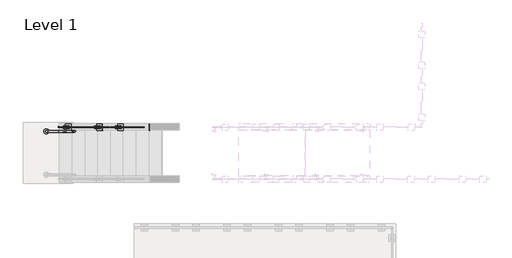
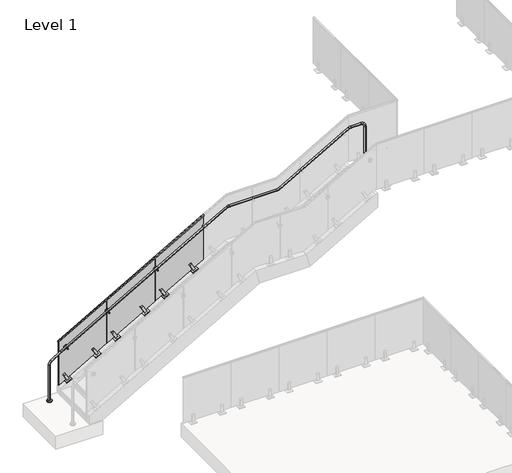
# One storey, part 14 of 17: 1 railing.
"""IFC4 building model written with IfcOpenShell, lengths in millimetres."""

from ifc_helpers import new_model, si_unit, point, frame, frame_2d, origin, origin_with_axes, place, context, project, spatial, polyline, circle_curve, ellipse_curve, trimmed, segment, composite_curve, outline, extrude, faceted_brep, element, save
from ifc_brep_helpers import plane_surface, cylinder_surface, revolved_surface, advanced_brep

model = new_model("IFC4")

# Units and contexts
model_context = context("Model", 3, world=origin())
ifc_project = project(units=[si_unit("LENGTHUNIT", "METRE", prefix="MILLI")], contexts=[model_context])

# Site, building, storey
site = spatial("IfcSite", under=ifc_project)
building = spatial("IfcBuilding", under=site)
storey = spatial("IfcBuildingStorey", under=building, Name="Level 1", Elevation=0.0)

# Railing
placement = place(None, origin())
element("IfcRailing", 1, ObjectType="VIVA-VISIO-Glass-Concrete Surface Mount-Stair_Lower", at=placement, inside=storey, context=model_context, shape_type="SolidModel", body=[
    extrude(outline(composite_curve([segment(trimmed(circle_curve(frame_2d((30763.9612561, -1477.2617549)), 50.8), [point((30763.9612561, -1528.0617549))], [point((30763.9612561, -1426.4617549))], False, "CARTESIAN"), True, "CONTINUOUS"), segment(trimmed(circle_curve(frame_2d((30763.9612561, -1477.2617549)), 50.8), [point((30763.9612561, -1426.4617549))], [point((30763.9612561, -1528.0617549))], False, "CARTESIAN"), True, "CONTINUOUS")], self_intersect=False)), frame((0.0, 0.0, 3048.0), z_axis=(0.0, 0.0, 1.0), x_axis=(1.0, 0.0, 0.0)), (0.0, 0.0, 1.0), 19.05),
    extrude(outline(composite_curve([segment(trimmed(circle_curve(frame_2d((24045.6612561, -1477.2617549)), 50.8), [point((24045.6612561, -1426.4617549))], [point((24045.6612561, -1528.0617549))], False, "CARTESIAN"), True, "CONTINUOUS"), segment(trimmed(circle_curve(frame_2d((24045.6612561, -1477.2617549)), 50.8), [point((24045.6612561, -1528.0617549))], [point((24045.6612561, -1426.4617549))], False, "CARTESIAN"), True, "CONTINUOUS")], self_intersect=False)), origin_with_axes(), (0.0, 0.0, 1.0), 19.05),
    advanced_brep(
    [(24045.6612561, -1496.3117549, 19.05), (24045.6612561, -1458.2117549, 19.05), (24045.6612561, -1496.3117549, 821.3205682), (24045.6612561, -1458.2117549, 821.3205682), (24082.4207549, -1458.2117549, 890.00632), (24082.4207549, -1496.3117549, 890.00632), (24288.2667076, -1496.3117549, 1027.2369552), (24288.2667076, -1458.2117549, 1027.2369552), (24293.1009394, -1458.2117549, 1030.2246748), (24293.1009394, -1496.3117549, 1030.2246748), (27388.8627028, -1496.3117549, 2799.2313967), (27388.8627028, -1458.2117549, 2799.2313967), (27822.6363335, -1496.3117549, 3047.1020428), (27822.6363335, -1458.2117549, 3047.1020428), (27863.5926029, -1458.2117549, 3057.9785714), (27863.5926029, -1496.3117549, 3057.9785714), (28876.4299093, -1496.3117549, 3057.9785714), (28876.4299093, -1458.2117549, 3057.9785714), (28936.2890722, -1458.2117549, 3073.8750363), (28936.2890722, -1496.3117549, 3073.8750363), (30413.4363335, -1496.3117549, 3917.9591857), (30413.4363335, -1458.2117549, 3917.9591857), (30454.3926029, -1458.2117549, 3928.8357143), (30454.3926029, -1496.3117549, 3928.8357143), (30681.4112561, -1496.3117549, 3928.8357143), (30681.4112561, -1458.2117549, 3928.8357143), (30763.9612561, -1458.2117549, 3846.2857143), (30763.9612561, -1496.3117549, 3846.2857143), (30763.9612561, -1496.3117549, 3067.05), (30763.9612561, -1458.2117549, 3067.05)],
    [
        (0, 1, circle_curve(frame((24045.6612561, -1477.2617549, 19.05), z_axis=(0.0, 0.0, -1.0), x_axis=(0.0, 1.0, 0.0)), 19.05)),
        (1, 0, circle_curve(frame((24045.6612561, -1477.2617549, 19.05), z_axis=(0.0, 0.0, -1.0), x_axis=(0.0, 1.0, 0.0)), 19.05)),
        (0, 2),
        (2, 3, circle_curve(frame((24045.6612561, -1477.2617549, 821.3205682), z_axis=(0.0, 0.0, -1.0), x_axis=(0.0, 1.0, 0.0)), 19.05)),
        (3, 1),
        (3, 2, circle_curve(frame((24045.6612561, -1477.2617549, 821.3205682), z_axis=(0.0, 0.0, -1.0), x_axis=(0.0, 1.0, 0.0)), 19.05)),
        (4, 3, circle_curve(frame((24128.2112561, -1458.2117549, 821.3205682), z_axis=(0.0, -1.0, 0.0), x_axis=(-0.9999999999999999, 0.0, 0.0)), 82.55)),
        (2, 5, circle_curve(frame((24128.2112561, -1496.3117549, 821.3205682), z_axis=(0.0, 1.0, 0.0), x_axis=(-0.9999999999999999, 0.0, 0.0)), 82.55)),
        (5, 4, circle_curve(frame((24082.4207549, -1477.2617549, 890.00632), z_axis=(-0.8320502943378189, 0.0, -0.554700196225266), x_axis=(0.0, 0.9999999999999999, 0.0)), 19.05)),
        (4, 5, circle_curve(frame((24082.4207549, -1477.2617549, 890.00632), z_axis=(-0.8320502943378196, 0.0, -0.5547001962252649), x_axis=(0.0, 0.9999999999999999, 0.0)), 19.05)),
        (5, 6),
        (6, 7, circle_curve(frame((24288.2667076, -1477.2617549, 1027.2369552), z_axis=(-0.8320502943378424, 0.0, -0.554700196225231), x_axis=(0.0, 1.0, 0.0)), 19.05)),
        (7, 4),
        (7, 6, circle_curve(frame((24288.2667076, -1477.2617549, 1027.2369552), z_axis=(-0.8320502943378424, 0.0, -0.554700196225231), x_axis=(0.0, 1.0, 0.0)), 19.05)),
        (8, 9, circle_curve(frame((24293.1009394, -1477.2617549, 1030.2246748), z_axis=(0.8682431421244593, 0.0, 0.49613893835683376), x_axis=(0.0, 1.0, 0.0)), 19.05)),
        (9, 10),
        (10, 11, circle_curve(frame((27388.8627028, -1477.2617549, 2799.2313967), z_axis=(-0.8682431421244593, 0.0, -0.49613893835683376), x_axis=(0.0, 1.0, 0.0)), 19.05)),
        (11, 8),
        (9, 8, circle_curve(frame((24293.1009394, -1477.2617549, 1030.2246748), z_axis=(0.8682431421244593, 0.0, 0.49613893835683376), x_axis=(0.0, 1.0, 0.0)), 19.05)),
        (11, 10, circle_curve(frame((27388.8627028, -1477.2617549, 2799.2313967), z_axis=(-0.8682431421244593, 0.0, -0.49613893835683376), x_axis=(0.0, 1.0, 0.0)), 19.05)),
        (8, 7, circle_curve(frame((24334.0572088, -1458.2117549, 958.5512034), z_axis=(0.0, -1.0, 0.0), x_axis=(-0.5547001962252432, 0.0, 0.8320502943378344)), 82.55)),
        (6, 9, circle_curve(frame((24334.0572088, -1496.3117549, 958.5512034), z_axis=(0.0, 1.0, 0.0), x_axis=(-0.5547001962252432, 0.0, 0.8320502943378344)), 82.55)),
        (10, 12),
        (12, 13, circle_curve(frame((27822.6363335, -1477.2617549, 3047.1020428), z_axis=(-0.8682431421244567, 0.0, -0.49613893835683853), x_axis=(0.0, 1.0, 0.0)), 19.05)),
        (13, 11),
        (13, 12, circle_curve(frame((27822.6363335, -1477.2617549, 3047.1020428), z_axis=(-0.8682431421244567, 0.0, -0.49613893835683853), x_axis=(0.0, 1.0, 0.0)), 19.05)),
        (14, 13, circle_curve(frame((27863.5926029, -1458.2117549, 2975.4285714), z_axis=(0.0, -1.0, 0.0), x_axis=(-0.49613893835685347, 0.0, 0.8682431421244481)), 82.55)),
        (12, 15, circle_curve(frame((27863.5926029, -1496.3117549, 2975.4285714), z_axis=(0.0, 1.0, 0.0), x_axis=(-0.49613893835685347, 0.0, 0.8682431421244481)), 82.55)),
        (15, 14, circle_curve(frame((27863.5926029, -1477.2617549, 3057.9785714), z_axis=(-1.0, 0.0, 0.0), x_axis=(0.0, 1.0, 0.0)), 19.05)),
        (14, 15, circle_curve(frame((27863.5926029, -1477.2617549, 3057.9785714), z_axis=(-1.0, 0.0, 0.0), x_axis=(0.0, 1.0, 0.0)), 19.05)),
        (15, 16),
        (16, 17, circle_curve(frame((28876.4299093, -1477.2617549, 3057.9785714), z_axis=(-1.0, 0.0, 0.0), x_axis=(0.0, 1.0, 0.0)), 19.05)),
        (17, 14),
        (17, 16, circle_curve(frame((28876.4299093, -1477.2617549, 3057.9785714), z_axis=(-1.0, 0.0, 0.0), x_axis=(0.0, 1.0, 0.0)), 19.05)),
        (18, 17, circle_curve(frame((28876.4299093, -1458.2117549, 3178.6285714), z_axis=(0.0, 1.0, 0.0), x_axis=(0.0, 0.0, -0.9999999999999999)), 120.65)),
        (16, 19, circle_curve(frame((28876.4299093, -1496.3117549, 3178.6285714), z_axis=(0.0, -1.0, 0.0), x_axis=(0.0, 0.0, -0.9999999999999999)), 120.65)),
        (19, 18, circle_curve(frame((28936.2890722, -1477.2617549, 3073.8750363), z_axis=(-0.8682431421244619, 0.0, -0.49613893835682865), x_axis=(0.0, 0.9999999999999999, 0.0)), 19.05)),
        (18, 19, circle_curve(frame((28936.2890722, -1477.2617549, 3073.8750363), z_axis=(-0.8682431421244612, 0.0, -0.4961389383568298), x_axis=(0.0, 0.9999999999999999, 0.0)), 19.05)),
        (19, 20),
        (20, 21, circle_curve(frame((30413.4363335, -1477.2617549, 3917.9591857), z_axis=(-0.8682431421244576, 0.0, -0.4961389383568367), x_axis=(0.0, 1.0, 0.0)), 19.05)),
        (21, 18),
        (21, 20, circle_curve(frame((30413.4363335, -1477.2617549, 3917.9591857), z_axis=(-0.8682431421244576, 0.0, -0.4961389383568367), x_axis=(0.0, 1.0, 0.0)), 19.05)),
        (22, 21, circle_curve(frame((30454.3926029, -1458.2117549, 3846.2857143), z_axis=(0.0, -1.0, 0.0), x_axis=(-0.49613893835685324, 0.0, 0.868243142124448)), 82.55)),
        (20, 23, circle_curve(frame((30454.3926029, -1496.3117549, 3846.2857143), z_axis=(0.0, 1.0, 0.0), x_axis=(-0.49613893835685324, 0.0, 0.868243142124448)), 82.55)),
        (23, 22, circle_curve(frame((30454.3926029, -1477.2617549, 3928.8357143), z_axis=(-0.9999999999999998, 0.0, 0.0), x_axis=(0.0, 0.9999999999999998, 0.0)), 19.05)),
        (22, 23, circle_curve(frame((30454.3926029, -1477.2617549, 3928.8357143), z_axis=(-0.9999999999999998, 0.0, 0.0), x_axis=(0.0, 0.9999999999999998, 0.0)), 19.05)),
        (23, 24),
        (24, 25, circle_curve(frame((30681.4112561, -1477.2617549, 3928.8357143), z_axis=(-1.0, 0.0, 0.0), x_axis=(0.0, 1.0, 0.0)), 19.05)),
        (25, 22),
        (25, 24, circle_curve(frame((30681.4112561, -1477.2617549, 3928.8357143), z_axis=(-1.0, 0.0, 0.0), x_axis=(0.0, 1.0, 0.0)), 19.05)),
        (26, 25, circle_curve(frame((30681.4112561, -1458.2117549, 3846.2857143), z_axis=(0.0, -1.0, 0.0), x_axis=(0.0, 0.0, 1.0)), 82.55)),
        (24, 27, circle_curve(frame((30681.4112561, -1496.3117549, 3846.2857143), z_axis=(0.0, 1.0, 0.0), x_axis=(0.0, 0.0, 1.0)), 82.55)),
        (27, 26, circle_curve(frame((30763.9612561, -1477.2617549, 3846.2857143), z_axis=(0.0, 0.0, 1.0), x_axis=(0.0, 1.0, 0.0)), 19.05)),
        (26, 27, circle_curve(frame((30763.9612561, -1477.2617549, 3846.2857143), z_axis=(0.0, 0.0, 1.0), x_axis=(0.0, 1.0, 0.0)), 19.05)),
        (28, 29, circle_curve(frame((30763.9612561, -1477.2617549, 3067.05), z_axis=(0.0, 0.0, -1.0), x_axis=(0.0, 1.0, 0.0)), 19.05)),
        (29, 28, circle_curve(frame((30763.9612561, -1477.2617549, 3067.05), z_axis=(0.0, 0.0, -1.0), x_axis=(0.0, 1.0, 0.0)), 19.05)),
        (27, 28),
        (29, 26),
    ],
    [
        plane_surface(frame((24026.6112561, -1515.3617549, 19.05), z_axis=(0.0, 0.0, -1.0), x_axis=(1.0, 0.0, 0.0))),
        cylinder_surface(frame((24045.6612561, -1477.2617549, 19.05), z_axis=(0.0, 0.0, -1.0), x_axis=(0.0, 1.0, 0.0)), 19.05),
        revolved_surface(trimmed(ellipse_curve(frame((24045.6612561, -1477.2617549, 821.3205682), z_axis=(0.0, 0.0, -0.9999999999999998), x_axis=(0.0, 0.9999999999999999, 0.0)), 19.05, 19.05), [point((24045.6612561, -1496.3117549, 821.3205682))], [point((24045.6612561, -1458.2117549, 821.3205682))], True, "CARTESIAN"), (24128.2112561, -1477.2617549, 821.3205682), (0.0, 0.9999999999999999, 0.0)),
        revolved_surface(trimmed(ellipse_curve(frame((24045.6612561, -1477.2617549, 821.3205682), z_axis=(0.0, 0.0, -0.9999999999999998), x_axis=(0.0, 0.9999999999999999, 0.0)), 19.05, 19.05), [point((24045.6612561, -1458.2117549, 821.3205682))], [point((24045.6612561, -1496.3117549, 821.3205682))], True, "CARTESIAN"), (24128.2112561, -1477.2617549, 821.3205682), (0.0, 0.9999999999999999, 0.0)),
        cylinder_surface(frame((24082.4207549, -1477.2617549, 890.00632), z_axis=(-0.8320502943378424, 0.0, -0.554700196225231), x_axis=(0.0, 1.0, 0.0)), 19.05),
        cylinder_surface(frame((24293.1009394, -1477.2617549, 1030.2246748), z_axis=(-0.8682431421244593, 0.0, -0.49613893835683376), x_axis=(0.0, 1.0, 0.0)), 19.05),
        revolved_surface(trimmed(ellipse_curve(frame((24288.2667076, -1477.2617549, 1027.2369552), z_axis=(-0.8320502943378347, 0.0, -0.5547001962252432), x_axis=(0.0, 1.0000000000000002, 0.0)), 19.05, 19.05), [point((24288.2667076, -1496.3117549, 1027.2369552))], [point((24288.2667076, -1458.2117549, 1027.2369552))], True, "CARTESIAN"), (24334.0572088, -1477.2617549, 958.5512034), (0.0, 1.0000000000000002, 0.0)),
        revolved_surface(trimmed(ellipse_curve(frame((24288.2667076, -1477.2617549, 1027.2369552), z_axis=(-0.8320502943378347, 0.0, -0.5547001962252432), x_axis=(0.0, 1.0000000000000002, 0.0)), 19.05, 19.05), [point((24288.2667076, -1458.2117549, 1027.2369552))], [point((24288.2667076, -1496.3117549, 1027.2369552))], True, "CARTESIAN"), (24334.0572088, -1477.2617549, 958.5512034), (0.0, 1.0000000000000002, 0.0)),
        cylinder_surface(frame((27388.8627028, -1477.2617549, 2799.2313967), z_axis=(-0.8682431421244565, 0.0, -0.4961389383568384), x_axis=(0.0, 1.0, 0.0)), 19.05),
        revolved_surface(trimmed(ellipse_curve(frame((27822.6363335, -1477.2617549, 3047.1020428), z_axis=(-0.8682431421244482, 0.0, -0.4961389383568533), x_axis=(0.0, 1.0, 0.0)), 19.05, 19.05), [point((27822.6363335, -1496.3117549, 3047.1020428))], [point((27822.6363335, -1458.2117549, 3047.1020428))], True, "CARTESIAN"), (27863.5926029, -1477.2617549, 2975.4285714), (0.0, 1.0, 0.0)),
        revolved_surface(trimmed(ellipse_curve(frame((27822.6363335, -1477.2617549, 3047.1020428), z_axis=(-0.8682431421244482, 0.0, -0.4961389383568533), x_axis=(0.0, 1.0, 0.0)), 19.05, 19.05), [point((27822.6363335, -1458.2117549, 3047.1020428))], [point((27822.6363335, -1496.3117549, 3047.1020428))], True, "CARTESIAN"), (27863.5926029, -1477.2617549, 2975.4285714), (0.0, 1.0, 0.0)),
        cylinder_surface(frame((27863.5926029, -1477.2617549, 3057.9785714), z_axis=(-1.0, 0.0, 0.0), x_axis=(0.0, 1.0, 0.0)), 19.05),
        revolved_surface(trimmed(ellipse_curve(frame((28876.4299093, -1477.2617549, 3057.9785714), z_axis=(-0.9999999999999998, 0.0, 0.0), x_axis=(0.0, 0.9999999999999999, 0.0)), 19.05, 19.05), [point((28876.4299093, -1496.3117549, 3057.9785714))], [point((28876.4299093, -1458.2117549, 3057.9785714))], True, "CARTESIAN"), (28876.4299093, -1477.2617549, 3178.6285714), (0.0, -0.9999999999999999, 0.0)),
        revolved_surface(trimmed(ellipse_curve(frame((28876.4299093, -1477.2617549, 3057.9785714), z_axis=(-0.9999999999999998, 0.0, 0.0), x_axis=(0.0, 0.9999999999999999, 0.0)), 19.05, 19.05), [point((28876.4299093, -1458.2117549, 3057.9785714))], [point((28876.4299093, -1496.3117549, 3057.9785714))], True, "CARTESIAN"), (28876.4299093, -1477.2617549, 3178.6285714), (0.0, -0.9999999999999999, 0.0)),
        cylinder_surface(frame((28936.2890722, -1477.2617549, 3073.8750363), z_axis=(-0.8682431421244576, 0.0, -0.4961389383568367), x_axis=(0.0, 1.0, 0.0)), 19.05),
        revolved_surface(trimmed(ellipse_curve(frame((30413.4363335, -1477.2617549, 3917.9591857), z_axis=(-0.8682431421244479, 0.0, -0.49613893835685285), x_axis=(0.0, 0.9999999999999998, 0.0)), 19.05, 19.05), [point((30413.4363335, -1496.3117549, 3917.9591857))], [point((30413.4363335, -1458.2117549, 3917.9591857))], True, "CARTESIAN"), (30454.3926029, -1477.2617549, 3846.2857143), (0.0, 0.9999999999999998, 0.0)),
        revolved_surface(trimmed(ellipse_curve(frame((30413.4363335, -1477.2617549, 3917.9591857), z_axis=(-0.8682431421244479, 0.0, -0.49613893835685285), x_axis=(0.0, 0.9999999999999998, 0.0)), 19.05, 19.05), [point((30413.4363335, -1458.2117549, 3917.9591857))], [point((30413.4363335, -1496.3117549, 3917.9591857))], True, "CARTESIAN"), (30454.3926029, -1477.2617549, 3846.2857143), (0.0, 0.9999999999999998, 0.0)),
        cylinder_surface(frame((30454.3926029, -1477.2617549, 3928.8357143), z_axis=(-1.0, 0.0, 0.0), x_axis=(0.0, 1.0, 0.0)), 19.05),
        revolved_surface(trimmed(ellipse_curve(frame((30681.4112561, -1477.2617549, 3928.8357143), z_axis=(-1.0, 0.0, 0.0), x_axis=(0.0, 1.0, 0.0)), 19.05, 19.05), [point((30681.4112561, -1496.3117549, 3928.8357143))], [point((30681.4112561, -1458.2117549, 3928.8357143))], True, "CARTESIAN"), (30681.4112561, -1477.2617549, 3846.2857143), (0.0, 1.0, 0.0)),
        revolved_surface(trimmed(ellipse_curve(frame((30681.4112561, -1477.2617549, 3928.8357143), z_axis=(-1.0, 0.0, 0.0), x_axis=(0.0, 1.0, 0.0)), 19.05, 19.05), [point((30681.4112561, -1458.2117549, 3928.8357143))], [point((30681.4112561, -1496.3117549, 3928.8357143))], True, "CARTESIAN"), (30681.4112561, -1477.2617549, 3846.2857143), (0.0, 1.0, 0.0)),
        plane_surface(frame((30783.0112561, -1515.3617549, 3067.05), z_axis=(0.0, 0.0, -1.0), x_axis=(-1.0, 0.0, 0.0))),
        cylinder_surface(frame((30763.9612561, -1477.2617549, 3846.2857143), z_axis=(0.0, 0.0, 1.0), x_axis=(0.0, 1.0, 0.0)), 19.05),
    ],
    [
        (0, [[1, 2]]),
        (1, [[-1, 3, 4, 5]]),
        (1, [[-2, -5, 6, -3]]),
        (2, [[7, -4, 8, 9]]),
        (3, [[-8, -6, -7, 10]]),
        (4, [[-9, 11, 12, 13]]),
        (4, [[-10, -13, 14, -11]]),
        (5, [[15, 16, 17, 18]]),
        (5, [[19, -18, 20, -16]]),
        (6, [[21, -12, 22, -15]]),
        (7, [[-22, -14, -21, -19]]),
        (8, [[-17, 23, 24, 25]]),
        (8, [[-20, -25, 26, -23]]),
        (9, [[27, -24, 28, 29]]),
        (10, [[-28, -26, -27, 30]]),
        (11, [[-29, 31, 32, 33]]),
        (11, [[-30, -33, 34, -31]]),
        (12, [[35, -32, 36, 37]]),
        (13, [[-36, -34, -35, 38]]),
        (14, [[-37, 39, 40, 41]]),
        (14, [[-38, -41, 42, -39]]),
        (15, [[43, -40, 44, 45]]),
        (16, [[-44, -42, -43, 46]]),
        (17, [[-45, 47, 48, 49]]),
        (17, [[-46, -49, 50, -47]]),
        (18, [[51, -48, 52, 53]]),
        (19, [[-52, -50, -51, 54]]),
        (20, [[55, 56]]),
        (21, [[-53, 57, -56, 58]]),
        (21, [[-54, -58, -55, -57]]),
    ],
),
    faceted_brep([(24280.6112561, -1405.5829549, 1222.8285714), (24280.6112561, -1383.8540486, 1222.8285714), (24280.6112561, -1383.8540486, 1193.5740933), (24280.6112561, -1388.3685017, 1193.5740933), (24280.6112561, -1388.3685017, 1218.4403997), (24280.6112561, -1401.0685017, 1218.4403997), (24280.6112561, -1401.0685017, 1193.5740933), (24280.6112561, -1405.5829549, 1193.5740933), (27379.4112561, -1405.5829549, 2993.5714286), (27379.4112561, -1405.5829549, 2964.3169505), (27379.4112561, -1401.0685017, 2964.3169505), (27379.4112561, -1401.0685017, 2989.1832569), (27379.4112561, -1388.3685017, 2989.1832569), (27379.4112561, -1388.3685017, 2964.3169505), (27379.4112561, -1383.8540486, 2964.3169505), (27379.4112561, -1383.8540486, 2993.5714286)], [[[0, 1, 2, 3, 4, 5, 6, 7]], [[8, 9, 10, 11, 12, 13, 14, 15]], [[1, 0, 8, 15]], [[2, 1, 15, 14]], [[3, 2, 14, 13]], [[4, 3, 13, 12]], [[5, 4, 12, 11]], [[6, 5, 11, 10]], [[7, 6, 10, 9]], [[0, 7, 9, 8]]]),
    extrude(outline(polyline([(0.0, -127.0), (0.0, 0.0), (127.0, 0.0), (127.0, -127.0), (0.0, -127.0)])), frame((27117.6911499, -1458.2117549, 1786.2814785), z_axis=(-0.4961389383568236, 0.0, 0.8682431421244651), x_axis=(0.0, 1.0, 0.0)), (0.0, 0.0, 1.0), 12.7),
    extrude(outline(polyline([(0.0, -12.7), (0.0, 0.0), (50.7999999, 0.0), (50.7999999, -12.7), (0.0, -12.7)])), frame((27150.7712136, -1388.3617549, 1805.1843721), z_axis=(-0.49613893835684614, 0.0, 0.8682431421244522), x_axis=(0.8682431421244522, 0.0, 0.49613893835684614)), (0.0, 0.0, 1.0), 50.8),
    extrude(outline(polyline([(0.0, 0.0), (139.7, 0.0), (166.6875, -11.1125), (166.6875, -19.05), (0.0, -19.05), (0.0, 0.0)])), frame((27138.9569051, -1420.1117549, 1825.8594119), z_axis=(0.8682431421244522, 0.0, 0.49613893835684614), x_axis=(-0.49613893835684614, 0.0, 0.8682431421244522)), (0.0, 0.0, 1.0), 50.8),
    extrude(outline(polyline([(0.0, -50.8), (0.0, -31.75), (166.6875, -31.75), (166.6875, -39.6875), (139.7, -50.8), (0.0, -50.8)])), frame((27138.9569051, -1420.1117549, 1825.8594119), z_axis=(0.8682431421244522, 0.0, 0.49613893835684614), x_axis=(-0.49613893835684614, 0.0, 0.8682431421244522)), (0.0, 0.0, 1.0), 50.8),
    extrude(outline(polyline([(2986.9494066, 27371.327636), (2406.377978, 26355.327636), (1407.5763011, 26355.327636), (1988.1477297, 27371.327636), (2986.9494066, 27371.327636)])), frame((0.0, -1401.0617549, 0.0), z_axis=(0.0, 1.0, 0.0), x_axis=(0.0, 0.0, 1.0)), (0.0, 0.0, 1.0), 12.7),
    extrude(outline(polyline([(0.0, -127.0), (0.0, 0.0), (127.0, 0.0), (127.0, -127.0), (0.0, -127.0)])), frame((26497.9311499, -1458.2117549, 1432.1329071), z_axis=(-0.4961389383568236, 0.0, 0.8682431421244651), x_axis=(0.0, 1.0, 0.0)), (0.0, 0.0, 1.0), 12.7),
    extrude(outline(polyline([(0.0, -12.7), (0.0, 0.0), (50.8, 0.0), (50.8, -12.7), (0.0, -12.7)])), frame((26531.0112136, -1388.3617549, 1451.0358006), z_axis=(-0.49613893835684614, 0.0, 0.8682431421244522), x_axis=(0.8682431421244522, 0.0, 0.49613893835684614)), (0.0, 0.0, 1.0), 50.8),
    extrude(outline(polyline([(0.0, 0.0), (139.7, 0.0), (166.6875, -11.1125), (166.6875, -19.05), (0.0, -19.05), (0.0, 0.0)])), frame((26519.1969051, -1420.1117549, 1471.7108405), z_axis=(0.8682431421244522, 0.0, 0.49613893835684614), x_axis=(-0.49613893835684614, 0.0, 0.8682431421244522)), (0.0, 0.0, 1.0), 50.8),
    extrude(outline(polyline([(0.0, -50.8), (0.0, -31.75), (166.6875, -31.75), (166.6875, -39.6875), (139.7, -50.8), (0.0, -50.8)])), frame((26519.1969051, -1420.1117549, 1471.7108405), z_axis=(0.8682431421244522, 0.0, 0.49613893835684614), x_axis=(-0.49613893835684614, 0.0, 0.8682431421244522)), (0.0, 0.0, 1.0), 50.8),
    extrude(outline(composite_curve([segment(trimmed(circle_curve(frame_2d((0.0, 7.0)), 7.0), [point((0.0, 14.0))], [point((0.0, 0.0))], False, "CARTESIAN"), True, "CONTINUOUS"), segment(trimmed(circle_curve(frame_2d((0.0, 7.0)), 7.0), [point((0.0, 0.0))], [point((0.0, 14.0))], False, "CARTESIAN"), True, "CONTINUOUS")], self_intersect=False)), frame((26359.2741159, -1469.9316158, 2123.885294), z_axis=(-0.5018548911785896, 0.0, 0.8649518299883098), x_axis=(-0.8649518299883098, 0.0, -0.5018548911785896)), (0.0, 0.0, 1.0), 52.8378352),
    extrude(outline(composite_curve([segment(polyline([(5.2466063, -13.9247915), (4.2292193, -14.9511811)]), True, "CONTINUOUS"), segment(trimmed(circle_curve(frame_2d((3.1638974, -13.8952033)), 1.5), [point((4.2292193, -14.9511811))], [point((2.0329756, -14.8806047))], False, "CARTESIAN"), True, "CONTINUOUS"), segment(trimmed(circle_curve(frame_2d((18.6575251, -0.3952033)), 22.05), [point((2.0329756, -14.8806047))], [point((2.0329756, 14.0901982))], False, "CARTESIAN"), True, "CONTINUOUS"), segment(trimmed(circle_curve(frame_2d((3.1638974, 13.1047967)), 1.5), [point((2.0329756, 14.0901982))], [point((4.2292193, 14.1607746))], False, "CARTESIAN"), True, "CONTINUOUS"), segment(polyline([(4.2292193, 14.1607746), (5.2466063, 13.134385)]), True, "CONTINUOUS"), segment(trimmed(circle_curve(frame_2d((18.6575251, -0.3952033)), 19.05), [point((5.2466063, 13.134385))], [point((5.2466063, -13.9247915))], True, "CARTESIAN"), True, "CONTINUOUS")], self_intersect=False)), frame((26294.8063338, -1478.6588481, 2151.6264769), z_axis=(0.8664916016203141, 0.0, 0.49919165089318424), x_axis=(-0.49919165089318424, 0.0, 0.8664916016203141)), (0.0, 0.0, 1.0), 74.5229187),
    extrude(outline(composite_curve([segment(trimmed(circle_curve(frame_2d((2146.0218095, 26346.4779227)), 11.0132813), [point((2146.0218095, 26357.491204))], [point((2146.0218095, 26335.4646415))], False, "CARTESIAN"), True, "CONTINUOUS"), segment(trimmed(circle_curve(frame_2d((2146.0218095, 26346.4779227)), 11.0132813), [point((2146.0218095, 26335.4646415))], [point((2146.0218095, 26357.491204))], False, "CARTESIAN"), True, "CONTINUOUS")], self_intersect=False)), frame((0.0, -1489.9617549, 0.0), z_axis=(0.0, 1.0, 0.0), x_axis=(0.0, 0.0, 1.0)), (0.0, 0.0, 1.0), 79.2757812),
    advanced_brep(
    [(26346.4779227, -1378.7375361, 2146.0218095), (26346.4779227, -1378.7375361, 2109.9061845), (26346.4779227, -1378.7375361, 2182.1374345), (26346.4779227, -1410.6859736, 2109.9061845), (26346.4779227, -1410.6859736, 2146.0218095), (26346.4779227, -1410.6859736, 2182.1374345), (26346.4779227, -1408.7015986, 2107.9218095), (26346.4779227, -1408.7015986, 2184.1218095), (26346.4779227, -1401.0617549, 2107.9218095), (26346.4779227, -1401.0617549, 2184.1218095), (26346.4779227, -1401.0617549, 2133.3218095), (26346.4779227, -1401.0617549, 2158.7218095), (26346.4779227, -1388.3617549, 2133.3218095), (26346.4779227, -1388.3617549, 2158.7218095), (26346.4779227, -1388.3617549, 2107.9218095), (26346.4779227, -1388.3617549, 2184.1218095), (26346.4779227, -1380.7219111, 2107.9218095), (26346.4779227, -1380.7219111, 2184.1218095)],
    [
        (0, 1),
        (1, 2, circle_curve(frame((26346.4779227, -1378.7375361, 2146.0218095), z_axis=(0.0, 1.0, 0.0), x_axis=(0.0, 0.0, 1.0)), 36.115625)),
        (2, 0),
        (2, 1, circle_curve(frame((26346.4779227, -1378.7375361, 2146.0218095), z_axis=(0.0, 1.0, 0.0), x_axis=(0.0, 0.0, 1.0)), 36.115625)),
        (3, 4),
        (4, 5),
        (5, 3, circle_curve(frame((26346.4779227, -1410.6859736, 2146.0218095), z_axis=(0.0, -1.0, 0.0), x_axis=(0.0, 0.0, 1.0)), 36.115625)),
        (3, 5, circle_curve(frame((26346.4779227, -1410.6859736, 2146.0218095), z_axis=(0.0, -1.0, 0.0), x_axis=(0.0, 0.0, 1.0)), 36.115625)),
        (6, 3),
        (5, 7),
        (7, 6, circle_curve(frame((26346.4779227, -1408.7015986, 2146.0218095), z_axis=(0.0, -1.0, 0.0), x_axis=(0.0, 0.0, 1.0)), 38.1)),
        (6, 7, circle_curve(frame((26346.4779227, -1408.7015986, 2146.0218095), z_axis=(0.0, -1.0, 0.0), x_axis=(0.0, 0.0, 1.0)), 38.1)),
        (8, 6),
        (7, 9),
        (9, 8, circle_curve(frame((26346.4779227, -1401.0617549, 2146.0218095), z_axis=(0.0, -1.0, 0.0), x_axis=(0.0, 0.0, 1.0)), 38.1)),
        (8, 9, circle_curve(frame((26346.4779227, -1401.0617549, 2146.0218095), z_axis=(0.0, -1.0, 0.0), x_axis=(0.0, 0.0, 1.0)), 38.1)),
        (10, 8),
        (9, 11),
        (11, 10, circle_curve(frame((26346.4779227, -1401.0617549, 2146.0218095), z_axis=(0.0, -1.0, 0.0), x_axis=(0.0, 0.0, 1.0)), 12.7)),
        (10, 11, circle_curve(frame((26346.4779227, -1401.0617549, 2146.0218095), z_axis=(0.0, -1.0, 0.0), x_axis=(0.0, 0.0, 1.0)), 12.7)),
        (12, 10),
        (11, 13),
        (13, 12, circle_curve(frame((26346.4779227, -1388.3617549, 2146.0218095), z_axis=(0.0, -1.0, 0.0), x_axis=(0.0, 0.0, 1.0)), 12.7)),
        (12, 13, circle_curve(frame((26346.4779227, -1388.3617549, 2146.0218095), z_axis=(0.0, -1.0, 0.0), x_axis=(0.0, 0.0, 1.0)), 12.7)),
        (14, 12),
        (13, 15),
        (15, 14, circle_curve(frame((26346.4779227, -1388.3617549, 2146.0218095), z_axis=(0.0, -1.0, 0.0), x_axis=(0.0, 0.0, 1.0)), 38.1)),
        (14, 15, circle_curve(frame((26346.4779227, -1388.3617549, 2146.0218095), z_axis=(0.0, -1.0, 0.0), x_axis=(0.0, 0.0, 1.0)), 38.1)),
        (16, 14),
        (15, 17),
        (17, 16, circle_curve(frame((26346.4779227, -1380.7219111, 2146.0218095), z_axis=(0.0, -1.0, 0.0), x_axis=(0.0, 0.0, 1.0)), 38.1)),
        (16, 17, circle_curve(frame((26346.4779227, -1380.7219111, 2146.0218095), z_axis=(0.0, -1.0, 0.0), x_axis=(0.0, 0.0, 1.0)), 38.1)),
        (1, 16),
        (17, 2),
    ],
    [
        plane_surface(frame((26346.4779227, -1378.7375361, 2146.0218095), z_axis=(0.0, 1.0, 0.0), x_axis=(0.0, 0.0, 1.0))),
        plane_surface(frame((26346.4779227, -1410.6859736, 2146.0218095), z_axis=(0.0, -1.0, 0.0), x_axis=(0.0, 0.0, 1.0))),
        revolved_surface(polyline([(26346.4779227, -1410.6859736, 2182.1374345), (26346.4779227, -1408.7015986, 2184.1218095)]), (26346.4779227, -1342.6219111, 2146.0218095), (0.0, 1.0, 0.0)),
        cylinder_surface(frame((26346.4779227, -1342.6219111, 2146.0218095), z_axis=(0.0, 1.0, 0.0), x_axis=(0.0, 0.0, 1.0)), 38.1),
        plane_surface(frame((26346.4779227, -1401.0617549, 2146.0218095), z_axis=(0.0, 1.0, 0.0), x_axis=(0.0, 0.0, 1.0))),
        cylinder_surface(frame((26346.4779227, -1342.6219111, 2146.0218095), z_axis=(0.0, 1.0, 0.0), x_axis=(0.0, 0.0, 1.0)), 12.7),
        plane_surface(frame((26346.4779227, -1388.3617549, 2146.0218095), z_axis=(0.0, -1.0, 0.0), x_axis=(0.0, 0.0, 1.0))),
        revolved_surface(polyline([(26346.4779227, -1380.7219111, 2184.1218095), (26346.4779227, -1378.7375361, 2182.1374345)]), (26346.4779227, -1342.6219111, 2146.0218095), (0.0, 1.0, 0.0)),
    ],
    [
        (0, [[1, 2, 3]]),
        (0, [[-3, 4, -1]]),
        (1, [[5, 6, 7]]),
        (1, [[-6, -5, 8]]),
        (2, [[9, -7, 10, 11]]),
        (2, [[-10, -8, -9, 12]]),
        (3, [[13, -11, 14, 15]]),
        (3, [[-14, -12, -13, 16]]),
        (4, [[17, -15, 18, 19]]),
        (4, [[-18, -16, -17, 20]]),
        (5, [[21, -19, 22, 23]]),
        (5, [[-22, -20, -21, 24]]),
        (6, [[25, -23, 26, 27]]),
        (6, [[-26, -24, -25, 28]]),
        (3, [[29, -27, 30, 31]]),
        (3, [[-30, -28, -29, 32]]),
        (7, [[33, -31, 34, -2]]),
        (7, [[-34, -32, -33, -4]]),
    ],
),
    extrude(outline(polyline([(0.0, -127.0000001), (0.0, 0.0), (127.0, 0.0), (127.0, -127.0000001), (0.0, -127.0000001)])), frame((26084.7578165, -1458.2117549, 1196.0338595), z_axis=(-0.4961389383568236, 0.0, 0.8682431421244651), x_axis=(0.0, 1.0, 0.0)), (0.0, 0.0, 1.0), 12.7),
    extrude(outline(polyline([(0.0, -12.7), (0.0, 0.0), (50.8, 0.0), (50.8, -12.7), (0.0, -12.7)])), frame((26117.8378803, -1388.3617549, 1214.936753), z_axis=(-0.49613893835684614, 0.0, 0.8682431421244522), x_axis=(0.8682431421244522, 0.0, 0.49613893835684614)), (0.0, 0.0, 1.0), 50.8),
    extrude(outline(polyline([(0.0, 0.0), (139.7, 0.0), (166.6875, -11.1125), (166.6875, -19.05), (0.0, -19.05), (0.0, 0.0)])), frame((26106.0235718, -1420.1117549, 1235.6117929), z_axis=(0.8682431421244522, 0.0, 0.49613893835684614), x_axis=(-0.49613893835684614, 0.0, 0.8682431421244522)), (0.0, 0.0, 1.0), 50.8),
    extrude(outline(polyline([(0.0, -50.8), (0.0, -31.75), (166.6875, -31.75), (166.6875, -39.6875), (139.7, -50.8), (0.0, -50.8)])), frame((26106.0235718, -1420.1117549, 1235.6117929), z_axis=(0.8682431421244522, 0.0, 0.49613893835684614), x_axis=(-0.49613893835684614, 0.0, 0.8682431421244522)), (0.0, 0.0, 1.0), 50.8),
    extrude(outline(polyline([(2396.7017875, 26338.3943027), (1816.1303589, 25322.3943027), (817.3286821, 25322.3943027), (1397.9001106, 26338.3943027), (2396.7017875, 26338.3943027)])), frame((0.0, -1401.0617549, 0.0), z_axis=(0.0, 1.0, 0.0), x_axis=(0.0, 0.0, 1.0)), (0.0, 0.0, 1.0), 12.7),
    extrude(outline(polyline([(0.0, -127.0), (0.0, 0.0), (127.0, 0.0), (127.0, -127.0), (0.0, -127.0)])), frame((25464.9978165, -1458.2117549, 841.8852881), z_axis=(-0.4961389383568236, 0.0, 0.8682431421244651), x_axis=(0.0, 1.0, 0.0)), (0.0, 0.0, 1.0), 12.7),
    extrude(outline(polyline([(0.0, -12.7), (0.0, 0.0), (50.8, 0.0), (50.8, -12.7), (0.0, -12.7)])), frame((25498.0778803, -1388.3617549, 860.7881816), z_axis=(-0.49613893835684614, 0.0, 0.8682431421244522), x_axis=(0.8682431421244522, 0.0, 0.49613893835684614)), (0.0, 0.0, 1.0), 50.8),
    extrude(outline(polyline([(0.0, 0.0), (139.7, 0.0), (166.6875, -11.1125), (166.6875, -19.05), (0.0, -19.05), (0.0, 0.0)])), frame((25486.2635718, -1420.1117549, 881.4632214), z_axis=(0.8682431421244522, 0.0, 0.49613893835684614), x_axis=(-0.49613893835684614, 0.0, 0.8682431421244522)), (0.0, 0.0, 1.0), 50.8),
    extrude(outline(polyline([(0.0, -50.8), (0.0, -31.75), (166.6875, -31.75), (166.6875, -39.6875), (139.7, -50.8), (0.0, -50.8)])), frame((25486.2635718, -1420.1117549, 881.4632214), z_axis=(0.8682431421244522, 0.0, 0.49613893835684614), x_axis=(-0.49613893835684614, 0.0, 0.8682431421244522)), (0.0, 0.0, 1.0), 50.8),
    extrude(outline(composite_curve([segment(trimmed(circle_curve(frame_2d((0.0, 7.0)), 7.0), [point((0.0, 14.0))], [point((0.0, 0.0))], False, "CARTESIAN"), True, "CONTINUOUS"), segment(trimmed(circle_curve(frame_2d((0.0, 7.0)), 7.0), [point((0.0, 0.0))], [point((0.0, 14.0))], False, "CARTESIAN"), True, "CONTINUOUS")], self_intersect=False)), frame((25326.3407825, -1469.9316158, 1533.637675), z_axis=(-0.5018548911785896, 0.0, 0.8649518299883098), x_axis=(-0.8649518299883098, 0.0, -0.5018548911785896)), (0.0, 0.0, 1.0), 52.8378352),
    extrude(outline(composite_curve([segment(polyline([(5.2466064, -13.9247915), (4.2292194, -14.9511811)]), True, "CONTINUOUS"), segment(trimmed(circle_curve(frame_2d((3.1638975, -13.8952033)), 1.5), [point((4.2292194, -14.9511811))], [point((2.0329757, -14.8806047))], False, "CARTESIAN"), True, "CONTINUOUS"), segment(trimmed(circle_curve(frame_2d((18.6575252, -0.3952033)), 22.05), [point((2.0329757, -14.8806047))], [point((2.0329757, 14.0901982))], False, "CARTESIAN"), True, "CONTINUOUS"), segment(trimmed(circle_curve(frame_2d((3.1638975, 13.1047967)), 1.5), [point((2.0329757, 14.0901982))], [point((4.2292194, 14.1607746))], False, "CARTESIAN"), True, "CONTINUOUS"), segment(polyline([(4.2292194, 14.1607746), (5.2466064, 13.134385)]), True, "CONTINUOUS"), segment(trimmed(circle_curve(frame_2d((18.6575252, -0.3952033)), 19.05), [point((5.2466064, 13.134385))], [point((5.2466064, -13.9247915))], True, "CARTESIAN"), True, "CONTINUOUS")], self_intersect=False)), frame((25261.8730005, -1478.6588481, 1561.3788578), z_axis=(0.8664916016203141, 0.0, 0.49919165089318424), x_axis=(-0.49919165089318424, 0.0, 0.8664916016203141)), (0.0, 0.0, 1.0), 74.5229187),
    extrude(outline(composite_curve([segment(trimmed(circle_curve(frame_2d((1555.7741905, 25313.5445894)), 11.0132813), [point((1555.7741905, 25324.5578707))], [point((1555.7741905, 25302.5313082))], False, "CARTESIAN"), True, "CONTINUOUS"), segment(trimmed(circle_curve(frame_2d((1555.7741905, 25313.5445894)), 11.0132813), [point((1555.7741905, 25302.5313082))], [point((1555.7741905, 25324.5578707))], False, "CARTESIAN"), True, "CONTINUOUS")], self_intersect=False)), frame((0.0, -1489.9617549, 0.0), z_axis=(0.0, 1.0, 0.0), x_axis=(0.0, 0.0, 1.0)), (0.0, 0.0, 1.0), 79.2757812),
    advanced_brep(
    [(25313.5445894, -1378.7375361, 1555.7741905), (25313.5445894, -1378.7375361, 1519.6585655), (25313.5445894, -1378.7375361, 1591.8898155), (25313.5445894, -1410.6859736, 1519.6585655), (25313.5445894, -1410.6859736, 1555.7741905), (25313.5445894, -1410.6859736, 1591.8898155), (25313.5445894, -1408.7015986, 1517.6741905), (25313.5445894, -1408.7015986, 1593.8741905), (25313.5445894, -1401.0617549, 1517.6741905), (25313.5445894, -1401.0617549, 1593.8741905), (25313.5445894, -1401.0617549, 1543.0741905), (25313.5445894, -1401.0617549, 1568.4741905), (25313.5445894, -1388.3617549, 1543.0741905), (25313.5445894, -1388.3617549, 1568.4741905), (25313.5445894, -1388.3617549, 1517.6741905), (25313.5445894, -1388.3617549, 1593.8741905), (25313.5445894, -1380.7219111, 1517.6741905), (25313.5445894, -1380.7219111, 1593.8741905)],
    [
        (0, 1),
        (1, 2, circle_curve(frame((25313.5445894, -1378.7375361, 1555.7741905), z_axis=(0.0, 1.0, 0.0), x_axis=(0.0, 0.0, 1.0)), 36.115625)),
        (2, 0),
        (2, 1, circle_curve(frame((25313.5445894, -1378.7375361, 1555.7741905), z_axis=(0.0, 1.0, 0.0), x_axis=(0.0, 0.0, 1.0)), 36.115625)),
        (3, 4),
        (4, 5),
        (5, 3, circle_curve(frame((25313.5445894, -1410.6859736, 1555.7741905), z_axis=(0.0, -1.0, 0.0), x_axis=(0.0, 0.0, 1.0)), 36.115625)),
        (3, 5, circle_curve(frame((25313.5445894, -1410.6859736, 1555.7741905), z_axis=(0.0, -1.0, 0.0), x_axis=(0.0, 0.0, 1.0)), 36.115625)),
        (6, 3),
        (5, 7),
        (7, 6, circle_curve(frame((25313.5445894, -1408.7015986, 1555.7741905), z_axis=(0.0, -1.0, 0.0), x_axis=(0.0, 0.0, 1.0)), 38.1)),
        (6, 7, circle_curve(frame((25313.5445894, -1408.7015986, 1555.7741905), z_axis=(0.0, -1.0, 0.0), x_axis=(0.0, 0.0, 1.0)), 38.1)),
        (8, 6),
        (7, 9),
        (9, 8, circle_curve(frame((25313.5445894, -1401.0617549, 1555.7741905), z_axis=(0.0, -1.0, 0.0), x_axis=(0.0, 0.0, 1.0)), 38.1)),
        (8, 9, circle_curve(frame((25313.5445894, -1401.0617549, 1555.7741905), z_axis=(0.0, -1.0, 0.0), x_axis=(0.0, 0.0, 1.0)), 38.1)),
        (10, 8),
        (9, 11),
        (11, 10, circle_curve(frame((25313.5445894, -1401.0617549, 1555.7741905), z_axis=(0.0, -1.0, 0.0), x_axis=(0.0, 0.0, 1.0)), 12.7)),
        (10, 11, circle_curve(frame((25313.5445894, -1401.0617549, 1555.7741905), z_axis=(0.0, -1.0, 0.0), x_axis=(0.0, 0.0, 1.0)), 12.7)),
        (12, 10),
        (11, 13),
        (13, 12, circle_curve(frame((25313.5445894, -1388.3617549, 1555.7741905), z_axis=(0.0, -1.0, 0.0), x_axis=(0.0, 0.0, 1.0)), 12.7)),
        (12, 13, circle_curve(frame((25313.5445894, -1388.3617549, 1555.7741905), z_axis=(0.0, -1.0, 0.0), x_axis=(0.0, 0.0, 1.0)), 12.7)),
        (14, 12),
        (13, 15),
        (15, 14, circle_curve(frame((25313.5445894, -1388.3617549, 1555.7741905), z_axis=(0.0, -1.0, 0.0), x_axis=(0.0, 0.0, 1.0)), 38.1)),
        (14, 15, circle_curve(frame((25313.5445894, -1388.3617549, 1555.7741905), z_axis=(0.0, -1.0, 0.0), x_axis=(0.0, 0.0, 1.0)), 38.1)),
        (16, 14),
        (15, 17),
        (17, 16, circle_curve(frame((25313.5445894, -1380.7219111, 1555.7741905), z_axis=(0.0, -1.0, 0.0), x_axis=(0.0, 0.0, 1.0)), 38.1)),
        (16, 17, circle_curve(frame((25313.5445894, -1380.7219111, 1555.7741905), z_axis=(0.0, -1.0, 0.0), x_axis=(0.0, 0.0, 1.0)), 38.1)),
        (1, 16),
        (17, 2),
    ],
    [
        plane_surface(frame((25313.5445894, -1378.7375361, 1555.7741905), z_axis=(0.0, 1.0, 0.0), x_axis=(0.0, 0.0, 1.0))),
        plane_surface(frame((25313.5445894, -1410.6859736, 1555.7741905), z_axis=(0.0, -1.0, 0.0), x_axis=(0.0, 0.0, 1.0))),
        revolved_surface(polyline([(25313.5445894, -1410.6859736, 1591.8898155), (25313.5445894, -1408.7015986, 1593.8741905)]), (25313.5445894, -1342.6219111, 1555.7741905), (0.0, 1.0, 0.0)),
        cylinder_surface(frame((25313.5445894, -1342.6219111, 1555.7741905), z_axis=(0.0, 1.0, 0.0), x_axis=(0.0, 0.0, 1.0)), 38.1),
        plane_surface(frame((25313.5445894, -1401.0617549, 1555.7741905), z_axis=(0.0, 1.0, 0.0), x_axis=(0.0, 0.0, 1.0))),
        cylinder_surface(frame((25313.5445894, -1342.6219111, 1555.7741905), z_axis=(0.0, 1.0, 0.0), x_axis=(0.0, 0.0, 1.0)), 12.7),
        plane_surface(frame((25313.5445894, -1388.3617549, 1555.7741905), z_axis=(0.0, -1.0, 0.0), x_axis=(0.0, 0.0, 1.0))),
        revolved_surface(polyline([(25313.5445894, -1380.7219111, 1593.8741905), (25313.5445894, -1378.7375361, 1591.8898155)]), (25313.5445894, -1342.6219111, 1555.7741905), (0.0, 1.0, 0.0)),
    ],
    [
        (0, [[1, 2, 3]]),
        (0, [[-3, 4, -1]]),
        (1, [[5, 6, 7]]),
        (1, [[-6, -5, 8]]),
        (2, [[9, -7, 10, 11]]),
        (2, [[-10, -8, -9, 12]]),
        (3, [[13, -11, 14, 15]]),
        (3, [[-14, -12, -13, 16]]),
        (4, [[17, -15, 18, 19]]),
        (4, [[-18, -16, -17, 20]]),
        (5, [[21, -19, 22, 23]]),
        (5, [[-22, -20, -21, 24]]),
        (6, [[25, -23, 26, 27]]),
        (6, [[-26, -24, -25, 28]]),
        (3, [[29, -27, 30, 31]]),
        (3, [[-30, -28, -29, 32]]),
        (7, [[33, -31, 34, -2]]),
        (7, [[-34, -32, -33, -4]]),
    ],
),
    extrude(outline(polyline([(0.0, -127.0000001), (0.0, 0.0), (127.0, 0.0), (127.0, -127.0000001), (0.0, -127.0000001)])), frame((25051.8244832, -1458.2117549, 605.7862404), z_axis=(-0.4961389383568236, 0.0, 0.8682431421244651), x_axis=(0.0, 1.0, 0.0)), (0.0, 0.0, 1.0), 12.7),
    extrude(outline(polyline([(0.0, -12.7), (0.0, 0.0), (50.8, 0.0), (50.8, -12.7), (0.0, -12.7)])), frame((25084.9045469, -1388.3617549, 624.689134), z_axis=(-0.49613893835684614, 0.0, 0.8682431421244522), x_axis=(0.8682431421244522, 0.0, 0.49613893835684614)), (0.0, 0.0, 1.0), 50.8),
    extrude(outline(polyline([(0.0, 0.0), (139.7, 0.0), (166.6875, -11.1125), (166.6875, -19.05), (0.0, -19.05), (0.0, 0.0)])), frame((25073.0902385, -1420.1117549, 645.3641738), z_axis=(0.8682431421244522, 0.0, 0.49613893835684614), x_axis=(-0.49613893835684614, 0.0, 0.8682431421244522)), (0.0, 0.0, 1.0), 50.8),
    extrude(outline(polyline([(0.0, -50.8), (0.0, -31.75), (166.6875, -31.75), (166.6875, -39.6875), (139.7, -50.8), (0.0, -50.8)])), frame((25073.0902385, -1420.1117549, 645.3641738), z_axis=(0.8682431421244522, 0.0, 0.49613893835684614), x_axis=(-0.49613893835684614, 0.0, 0.8682431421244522)), (0.0, 0.0, 1.0), 50.8),
    extrude(outline(polyline([(1806.4541685, 25305.4609693), (1225.8827399, 24289.4609693), (227.081063, 24289.4609693), (807.6524916, 25305.4609693), (1806.4541685, 25305.4609693)])), frame((0.0, -1401.0617549, 0.0), z_axis=(0.0, 1.0, 0.0), x_axis=(0.0, 0.0, 1.0)), (0.0, 0.0, 1.0), 12.7),
    extrude(outline(polyline([(0.0, -127.0000001), (0.0, 0.0), (127.0, 0.0), (127.0, -127.0000001), (0.0, -127.0000001)])), frame((24432.0644832, -1458.2117549, 251.637669), z_axis=(-0.4961389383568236, 0.0, 0.8682431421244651), x_axis=(0.0, 1.0, 0.0)), (0.0, 0.0, 1.0), 12.7),
    extrude(outline(polyline([(0.0, -12.7), (0.0, 0.0), (50.7999999, 0.0), (50.7999999, -12.7), (0.0, -12.7)])), frame((24465.1445469, -1388.3617549, 270.5405626), z_axis=(-0.49613893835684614, 0.0, 0.8682431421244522), x_axis=(0.8682431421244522, 0.0, 0.49613893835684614)), (0.0, 0.0, 1.0), 50.8),
    extrude(outline(polyline([(0.0, 0.0), (139.7, 0.0), (166.6875, -11.1125), (166.6875, -19.05), (0.0, -19.05), (0.0, 0.0)])), frame((24453.3302385, -1420.1117549, 291.2156024), z_axis=(0.8682431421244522, 0.0, 0.49613893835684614), x_axis=(-0.49613893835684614, 0.0, 0.8682431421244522)), (0.0, 0.0, 1.0), 50.8),
    extrude(outline(polyline([(0.0, -50.8), (0.0, -31.75), (166.6875, -31.75), (166.6875, -39.6875), (139.7, -50.8), (0.0, -50.8)])), frame((24453.3302385, -1420.1117549, 291.2156024), z_axis=(0.8682431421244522, 0.0, 0.49613893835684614), x_axis=(-0.49613893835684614, 0.0, 0.8682431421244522)), (0.0, 0.0, 1.0), 50.8),
    extrude(outline(composite_curve([segment(trimmed(circle_curve(frame_2d((0.0, 7.0)), 7.0), [point((0.0, 14.0))], [point((0.0, 0.0))], False, "CARTESIAN"), True, "CONTINUOUS"), segment(trimmed(circle_curve(frame_2d((0.0, 7.0)), 7.0), [point((0.0, 0.0))], [point((0.0, 14.0))], False, "CARTESIAN"), True, "CONTINUOUS")], self_intersect=False)), frame((24445.8074492, -1469.9316158, 1030.4757702), z_axis=(-0.5018548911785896, 0.0, 0.8649518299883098), x_axis=(-0.8649518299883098, 0.0, -0.5018548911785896)), (0.0, 0.0, 1.0), 52.8378352),
    extrude(outline(composite_curve([segment(polyline([(5.2466063, -13.9247915), (4.2292193, -14.9511811)]), True, "CONTINUOUS"), segment(trimmed(circle_curve(frame_2d((3.1638974, -13.8952033)), 1.5), [point((4.2292193, -14.9511811))], [point((2.0329756, -14.8806047))], False, "CARTESIAN"), True, "CONTINUOUS"), segment(trimmed(circle_curve(frame_2d((18.6575251, -0.3952033)), 22.05), [point((2.0329756, -14.8806047))], [point((2.0329756, 14.0901982))], False, "CARTESIAN"), True, "CONTINUOUS"), segment(trimmed(circle_curve(frame_2d((3.1638974, 13.1047967)), 1.5), [point((2.0329756, 14.0901982))], [point((4.2292193, 14.1607746))], False, "CARTESIAN"), True, "CONTINUOUS"), segment(polyline([(4.2292193, 14.1607746), (5.2466063, 13.134385)]), True, "CONTINUOUS"), segment(trimmed(circle_curve(frame_2d((18.6575251, -0.3952033)), 19.05), [point((5.2466063, 13.134385))], [point((5.2466063, -13.9247915))], True, "CARTESIAN"), True, "CONTINUOUS")], self_intersect=False)), frame((24381.3396672, -1478.6588481, 1058.2169531), z_axis=(0.8664916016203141, 0.0, 0.49919165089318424), x_axis=(-0.49919165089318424, 0.0, 0.8664916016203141)), (0.0, 0.0, 1.0), 74.5229187),
    extrude(outline(composite_curve([segment(trimmed(circle_curve(frame_2d((1052.6122857, 24433.0112561)), 11.0132813), [point((1052.6122857, 24444.0245373))], [point((1052.6122857, 24421.9979748))], False, "CARTESIAN"), True, "CONTINUOUS"), segment(trimmed(circle_curve(frame_2d((1052.6122857, 24433.0112561)), 11.0132813), [point((1052.6122857, 24421.9979748))], [point((1052.6122857, 24444.0245373))], False, "CARTESIAN"), True, "CONTINUOUS")], self_intersect=False)), frame((0.0, -1489.9617549, 0.0), z_axis=(0.0, 1.0, 0.0), x_axis=(0.0, 0.0, 1.0)), (0.0, 0.0, 1.0), 79.2757812),
    advanced_brep(
    [(24433.0112561, -1378.7375361, 1052.6122857), (24433.0112561, -1378.7375361, 1016.4966607), (24433.0112561, -1378.7375361, 1088.7279107), (24433.0112561, -1410.6859736, 1016.4966607), (24433.0112561, -1410.6859736, 1052.6122857), (24433.0112561, -1410.6859736, 1088.7279107), (24433.0112561, -1408.7015986, 1014.5122857), (24433.0112561, -1408.7015986, 1090.7122857), (24433.0112561, -1401.0617549, 1014.5122857), (24433.0112561, -1401.0617549, 1090.7122857), (24433.0112561, -1401.0617549, 1039.9122857), (24433.0112561, -1401.0617549, 1065.3122857), (24433.0112561, -1388.3617549, 1039.9122857), (24433.0112561, -1388.3617549, 1065.3122857), (24433.0112561, -1388.3617549, 1014.5122857), (24433.0112561, -1388.3617549, 1090.7122857), (24433.0112561, -1380.7219111, 1014.5122857), (24433.0112561, -1380.7219111, 1090.7122857)],
    [
        (0, 1),
        (1, 2, circle_curve(frame((24433.0112561, -1378.7375361, 1052.6122857), z_axis=(0.0, 1.0, 0.0), x_axis=(0.0, 0.0, 1.0)), 36.115625)),
        (2, 0),
        (2, 1, circle_curve(frame((24433.0112561, -1378.7375361, 1052.6122857), z_axis=(0.0, 1.0, 0.0), x_axis=(0.0, 0.0, 1.0)), 36.115625)),
        (3, 4),
        (4, 5),
        (5, 3, circle_curve(frame((24433.0112561, -1410.6859736, 1052.6122857), z_axis=(0.0, -1.0, 0.0), x_axis=(0.0, 0.0, 1.0)), 36.115625)),
        (3, 5, circle_curve(frame((24433.0112561, -1410.6859736, 1052.6122857), z_axis=(0.0, -1.0, 0.0), x_axis=(0.0, 0.0, 1.0)), 36.115625)),
        (6, 3),
        (5, 7),
        (7, 6, circle_curve(frame((24433.0112561, -1408.7015986, 1052.6122857), z_axis=(0.0, -1.0, 0.0), x_axis=(0.0, 0.0, 1.0)), 38.1)),
        (6, 7, circle_curve(frame((24433.0112561, -1408.7015986, 1052.6122857), z_axis=(0.0, -1.0, 0.0), x_axis=(0.0, 0.0, 1.0)), 38.1)),
        (8, 6),
        (7, 9),
        (9, 8, circle_curve(frame((24433.0112561, -1401.0617549, 1052.6122857), z_axis=(0.0, -1.0, 0.0), x_axis=(0.0, 0.0, 1.0)), 38.1)),
        (8, 9, circle_curve(frame((24433.0112561, -1401.0617549, 1052.6122857), z_axis=(0.0, -1.0, 0.0), x_axis=(0.0, 0.0, 1.0)), 38.1)),
        (10, 8),
        (9, 11),
        (11, 10, circle_curve(frame((24433.0112561, -1401.0617549, 1052.6122857), z_axis=(0.0, -1.0, 0.0), x_axis=(0.0, 0.0, 1.0)), 12.7)),
        (10, 11, circle_curve(frame((24433.0112561, -1401.0617549, 1052.6122857), z_axis=(0.0, -1.0, 0.0), x_axis=(0.0, 0.0, 1.0)), 12.7)),
        (12, 10),
        (11, 13),
        (13, 12, circle_curve(frame((24433.0112561, -1388.3617549, 1052.6122857), z_axis=(0.0, -1.0, 0.0), x_axis=(0.0, 0.0, 1.0)), 12.7)),
        (12, 13, circle_curve(frame((24433.0112561, -1388.3617549, 1052.6122857), z_axis=(0.0, -1.0, 0.0), x_axis=(0.0, 0.0, 1.0)), 12.7)),
        (14, 12),
        (13, 15),
        (15, 14, circle_curve(frame((24433.0112561, -1388.3617549, 1052.6122857), z_axis=(0.0, -1.0, 0.0), x_axis=(0.0, 0.0, 1.0)), 38.1)),
        (14, 15, circle_curve(frame((24433.0112561, -1388.3617549, 1052.6122857), z_axis=(0.0, -1.0, 0.0), x_axis=(0.0, 0.0, 1.0)), 38.1)),
        (16, 14),
        (15, 17),
        (17, 16, circle_curve(frame((24433.0112561, -1380.7219111, 1052.6122857), z_axis=(0.0, -1.0, 0.0), x_axis=(0.0, 0.0, 1.0)), 38.1)),
        (16, 17, circle_curve(frame((24433.0112561, -1380.7219111, 1052.6122857), z_axis=(0.0, -1.0, 0.0), x_axis=(0.0, 0.0, 1.0)), 38.1)),
        (1, 16),
        (17, 2),
    ],
    [
        plane_surface(frame((24433.0112561, -1378.7375361, 1052.6122857), z_axis=(0.0, 1.0, 0.0), x_axis=(0.0, 0.0, 1.0))),
        plane_surface(frame((24433.0112561, -1410.6859736, 1052.6122857), z_axis=(0.0, -1.0, 0.0), x_axis=(0.0, 0.0, 1.0))),
        revolved_surface(polyline([(24433.0112561, -1410.6859736, 1088.7279107), (24433.0112561, -1408.7015986, 1090.7122857)]), (24433.0112561, -1342.6219111, 1052.6122857), (0.0, 1.0, 0.0)),
        cylinder_surface(frame((24433.0112561, -1342.6219111, 1052.6122857), z_axis=(0.0, 1.0, 0.0), x_axis=(0.0, 0.0, 1.0)), 38.1),
        plane_surface(frame((24433.0112561, -1401.0617549, 1052.6122857), z_axis=(0.0, 1.0, 0.0), x_axis=(0.0, 0.0, 1.0))),
        cylinder_surface(frame((24433.0112561, -1342.6219111, 1052.6122857), z_axis=(0.0, 1.0, 0.0), x_axis=(0.0, 0.0, 1.0)), 12.7),
        plane_surface(frame((24433.0112561, -1388.3617549, 1052.6122857), z_axis=(0.0, -1.0, 0.0), x_axis=(0.0, 0.0, 1.0))),
        revolved_surface(polyline([(24433.0112561, -1380.7219111, 1090.7122857), (24433.0112561, -1378.7375361, 1088.7279107)]), (24433.0112561, -1342.6219111, 1052.6122857), (0.0, 1.0, 0.0)),
    ],
    [
        (0, [[1, 2, 3]]),
        (0, [[-3, 4, -1]]),
        (1, [[5, 6, 7]]),
        (1, [[-6, -5, 8]]),
        (2, [[9, -7, 10, 11]]),
        (2, [[-10, -8, -9, 12]]),
        (3, [[13, -11, 14, 15]]),
        (3, [[-14, -12, -13, 16]]),
        (4, [[17, -15, 18, 19]]),
        (4, [[-18, -16, -17, 20]]),
        (5, [[21, -19, 22, 23]]),
        (5, [[-22, -20, -21, 24]]),
        (6, [[25, -23, 26, 27]]),
        (6, [[-26, -24, -25, 28]]),
        (3, [[29, -27, 30, 31]]),
        (3, [[-30, -28, -29, 32]]),
        (7, [[33, -31, 34, -2]]),
        (7, [[-34, -32, -33, -4]]),
    ],
),
])

save(model, "model.ifc")
